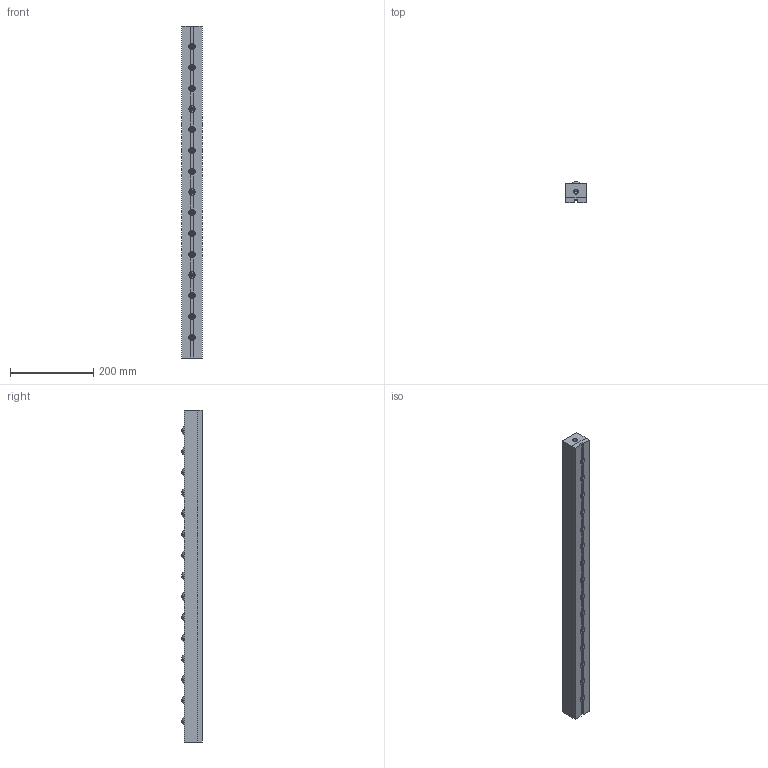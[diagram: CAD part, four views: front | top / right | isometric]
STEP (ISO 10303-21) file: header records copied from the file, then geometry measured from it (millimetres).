
FILE_DESCRIPTION (( 'STEP AP203' ), '1' );
FILE_NAME ('PVL55SH-15.STEP', '2016-01-25T01:19:28', ( '' ), ( '' ), 'SwSTEP 2.0', 'SolidWorks 2013', '' );
FILE_SCHEMA (( 'CONFIG_CONTROL_DESIGN' ));
Length unit declared in the file: millimetre
Products named in the file (1): PVL55SH-15
Bounding box: 49 x 50 x 800 mm (x, y, z)
Volume: 1694219.3 mm3; surface area: 274672.2 mm2
Topology: 2 solids, 2 shells, 658 faces, 1420 edges, 950 vertices
Faces by surface type: cylinder 378, plane 246, sphere 30, cone 4
Entity records: 18445 total; most frequent: DIRECTION 3616, CARTESIAN_POINT 3027, ORIENTED_EDGE 2836, AXIS2_PLACEMENT_3D 1539, EDGE_CURVE 1418, VERTEX_POINT 950, CIRCLE 880, EDGE_LOOP 852
